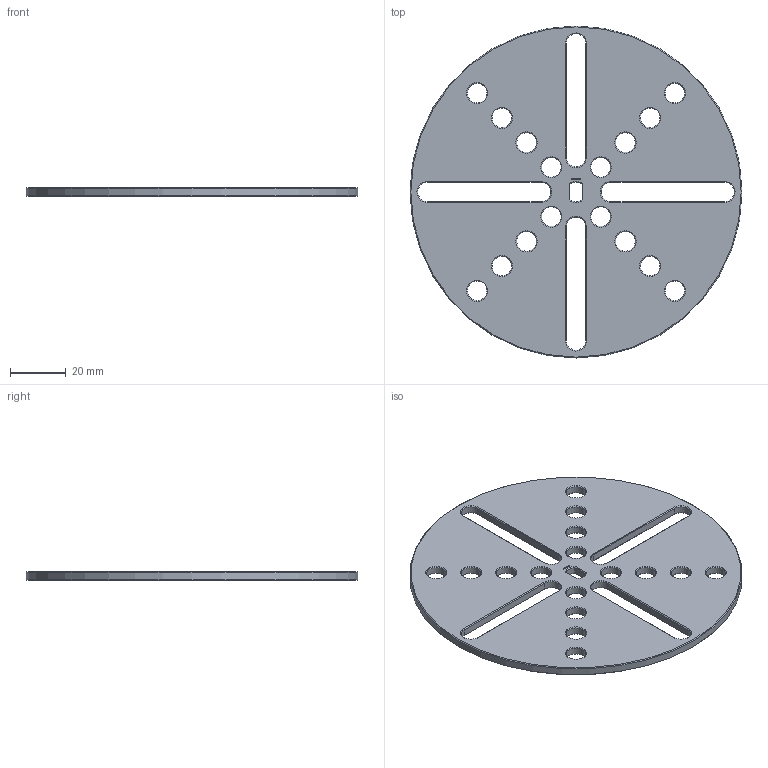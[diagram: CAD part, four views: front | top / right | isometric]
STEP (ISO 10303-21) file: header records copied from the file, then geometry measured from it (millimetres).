
FILE_DESCRIPTION(/* description */ (''),/* implementation_level */ '2;1');
FILE_NAME(/* name */ '/Users/paulokiefe/Desktop/STEMFIE/Fasteners/Washers/Fixed/Washer WSR FXD BU0.25x9.50 - SPN-WSR-0035 v1.step',/* time_stamp */ '2020-09-27T23:23:31+02:00',/* author */ (''),/* organization */ (''),/* preprocessor_version */ 'ST-DEVELOPER v18.1',/* originating_system */ 'Autodesk Translation Framework v9.3.0.1241',/* authorisation */ '');
FILE_SCHEMA (('AUTOMOTIVE_DESIGN { 1 0 10303 214 3 1 1 }'));
Length unit declared in the file: millimetre
Products named in the file (1): Washer WSR FXD BU0.25x9.50 - SPN-WSR-0035
Bounding box: 118.75 x 118.75 x 3.12 mm (x, y, z)
Volume: 28455.6 mm3; surface area: 21496.9 mm2
Topology: 1 solids, 1 shells, 357 faces, 955 edges, 612 vertices
Faces by surface type: plane 276, cone 54, cylinder 27
Full cylindrical faces by diameter (mm): 7 x16, 118.75 x1
Entity records: 11030 total; most frequent: CARTESIAN_POINT 1949, ORIENTED_EDGE 1910, DIRECTION 1771, EDGE_CURVE 955, LINE 839, VECTOR 839, VERTEX_POINT 612, AXIS2_PLACEMENT_3D 466
